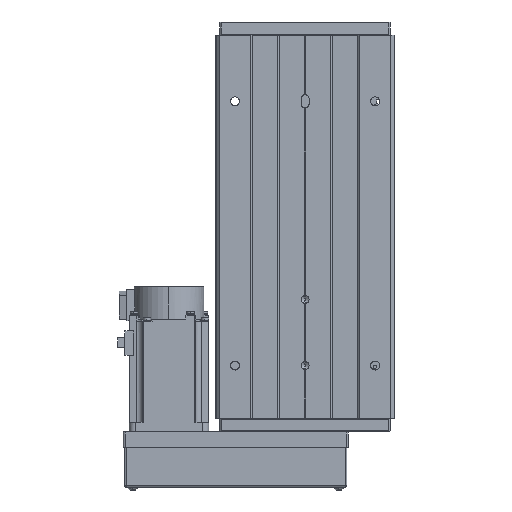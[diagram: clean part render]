
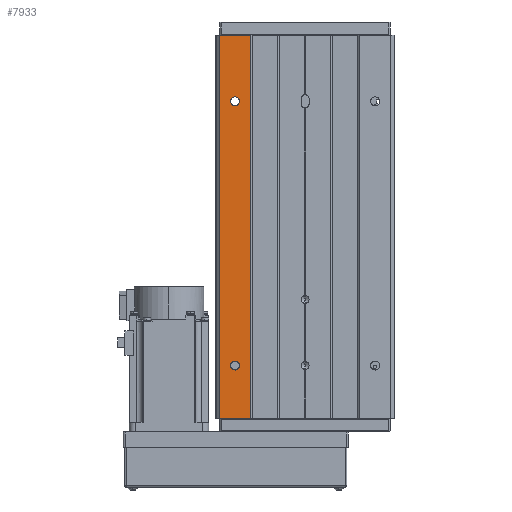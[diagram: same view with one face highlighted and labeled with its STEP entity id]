
A CAD part, front view. The second image highlights one B-rep face of the part: STEP entity #7933.
In plain terms, the highlighted planar face has unit normal (0, -1, 0).
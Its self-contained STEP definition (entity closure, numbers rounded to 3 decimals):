
#397 = VERTEX_POINT ( 'NONE', #2850 ) ;
#709 = LINE ( 'NONE', #14099, #18225 ) ;
#810 = ORIENTED_EDGE ( 'NONE', *, *, #37050, .T. ) ;
#820 = AXIS2_PLACEMENT_3D ( 'NONE', #4915, #18282, #31631 ) ;
#2409 = DIRECTION ( 'NONE',  ( 0., 0., 1. ) ) ;
#2850 = CARTESIAN_POINT ( 'NONE',  ( 41., -1., 145. ) ) ;
#3569 = VERTEX_POINT ( 'NONE', #15835 ) ;
#3582 = CARTESIAN_POINT ( 'NONE',  ( 40., -1., -145. ) ) ;
#4068 = EDGE_CURVE ( 'NONE', #35779, #29461, #24856, .T. ) ;
#4228 = CIRCLE ( 'NONE', #28717, 3.4 ) ;
#4469 = VERTEX_POINT ( 'NONE', #15092 ) ;
#4915 = CARTESIAN_POINT ( 'NONE',  ( 53., -1., 105. ) ) ;
#5044 = AXIS2_PLACEMENT_3D ( 'NONE', #23146, #36492, #6504 ) ;
#5912 = CARTESIAN_POINT ( 'NONE',  ( 53., -1., -91.6 ) ) ;
#5962 = AXIS2_PLACEMENT_3D ( 'NONE', #19063, #32416, #2409 ) ;
#6504 = DIRECTION ( 'NONE',  ( 0., 0., 1. ) ) ;
#7390 = CARTESIAN_POINT ( 'NONE',  ( 53., -1., 108.4 ) ) ;
#7933 = ADVANCED_FACE ( 'NONE', ( #41413, #11429, #24780 ), #38128, .F. ) ;
#8134 = CARTESIAN_POINT ( 'NONE',  ( 40., -1., 145. ) ) ;
#9204 = CARTESIAN_POINT ( 'NONE',  ( 64.5, -1., -145. ) ) ;
#9296 = EDGE_CURVE ( 'NONE', #4469, #3569, #39209, .T. ) ;
#9373 = LINE ( 'NONE', #22733, #29670 ) ;
#9578 = DIRECTION ( 'NONE',  ( 0., 0., 1. ) ) ;
#11429 = FACE_BOUND ( 'NONE', #18614, .T. ) ;
#14099 = CARTESIAN_POINT ( 'NONE',  ( 41., -1., 145. ) ) ;
#15065 = CARTESIAN_POINT ( 'NONE',  ( 53., -1., 101.6 ) ) ;
#15092 = CARTESIAN_POINT ( 'NONE',  ( 64.5, -1., -145. ) ) ;
#15583 = VERTEX_POINT ( 'NONE', #7390 ) ;
#15835 = CARTESIAN_POINT ( 'NONE',  ( 64.5, -1., 145. ) ) ;
#16522 = EDGE_CURVE ( 'NONE', #397, #3569, #9373, .T. ) ;
#16960 = DIRECTION ( 'NONE',  ( 1., 0., 0. ) ) ;
#17221 = ORIENTED_EDGE ( 'NONE', *, *, #19093, .T. ) ;
#17327 = ORIENTED_EDGE ( 'NONE', *, *, #26663, .T. ) ;
#18225 = VECTOR ( 'NONE', #27460, 1000. ) ;
#18282 = DIRECTION ( 'NONE',  ( 0., 1., 0. ) ) ;
#18614 = EDGE_LOOP ( 'NONE', ( #810, #37930 ) ) ;
#19063 = CARTESIAN_POINT ( 'NONE',  ( 53., -1., -95. ) ) ;
#19093 = EDGE_CURVE ( 'NONE', #397, #30663, #709, .T. ) ;
#19728 = CIRCLE ( 'NONE', #820, 3.4 ) ;
#21424 = EDGE_CURVE ( 'NONE', #30663, #4469, #33585, .T. ) ;
#21485 = DIRECTION ( 'NONE',  ( 0., 1., 0. ) ) ;
#22043 = ORIENTED_EDGE ( 'NONE', *, *, #4068, .T. ) ;
#22420 = EDGE_CURVE ( 'NONE', #40745, #15583, #19728, .T. ) ;
#22571 = DIRECTION ( 'NONE',  ( 0., 0., 1. ) ) ;
#22733 = CARTESIAN_POINT ( 'NONE',  ( 40., -1., 145. ) ) ;
#23146 = CARTESIAN_POINT ( 'NONE',  ( 53., -1., -95. ) ) ;
#23161 = VECTOR ( 'NONE', #16960, 1000. ) ;
#23549 = EDGE_LOOP ( 'NONE', ( #41003, #24965, #41051, #17221 ) ) ;
#23944 = CIRCLE ( 'NONE', #5044, 3.4 ) ;
#24780 = FACE_OUTER_BOUND ( 'NONE', #23549, .T. ) ;
#24856 = CIRCLE ( 'NONE', #5962, 3.4 ) ;
#24965 = ORIENTED_EDGE ( 'NONE', *, *, #9296, .T. ) ;
#26239 = CARTESIAN_POINT ( 'NONE',  ( 53., -1., 105. ) ) ;
#26663 = EDGE_CURVE ( 'NONE', #29461, #35779, #23944, .T. ) ;
#27319 = VECTOR ( 'NONE', #22571, 1000. ) ;
#27460 = DIRECTION ( 'NONE',  ( 0., 0., -1. ) ) ;
#28717 = AXIS2_PLACEMENT_3D ( 'NONE', #26239, #39584, #9578 ) ;
#29461 = VERTEX_POINT ( 'NONE', #5912 ) ;
#29484 = CARTESIAN_POINT ( 'NONE',  ( 53., -1., -98.4 ) ) ;
#29670 = VECTOR ( 'NONE', #36085, 1000. ) ;
#30663 = VERTEX_POINT ( 'NONE', #41902 ) ;
#31631 = DIRECTION ( 'NONE',  ( 0., 0., 1. ) ) ;
#32416 = DIRECTION ( 'NONE',  ( 0., 1., 0. ) ) ;
#33585 = LINE ( 'NONE', #3582, #23161 ) ;
#34820 = DIRECTION ( 'NONE',  ( -1., 0., 0. ) ) ;
#35779 = VERTEX_POINT ( 'NONE', #29484 ) ;
#36085 = DIRECTION ( 'NONE',  ( 1., 0., 0. ) ) ;
#36492 = DIRECTION ( 'NONE',  ( 0., 1., 0. ) ) ;
#37050 = EDGE_CURVE ( 'NONE', #15583, #40745, #4228, .T. ) ;
#37930 = ORIENTED_EDGE ( 'NONE', *, *, #22420, .T. ) ;
#38128 = PLANE ( 'NONE',  #41903 ) ;
#39181 = EDGE_LOOP ( 'NONE', ( #17327, #22043 ) ) ;
#39209 = LINE ( 'NONE', #9204, #27319 ) ;
#39584 = DIRECTION ( 'NONE',  ( 0., 1., 0. ) ) ;
#40745 = VERTEX_POINT ( 'NONE', #15065 ) ;
#41003 = ORIENTED_EDGE ( 'NONE', *, *, #21424, .T. ) ;
#41051 = ORIENTED_EDGE ( 'NONE', *, *, #16522, .F. ) ;
#41413 = FACE_BOUND ( 'NONE', #39181, .T. ) ;
#41902 = CARTESIAN_POINT ( 'NONE',  ( 41., -1., -145. ) ) ;
#41903 = AXIS2_PLACEMENT_3D ( 'NONE', #8134, #21485, #34820 ) ;
